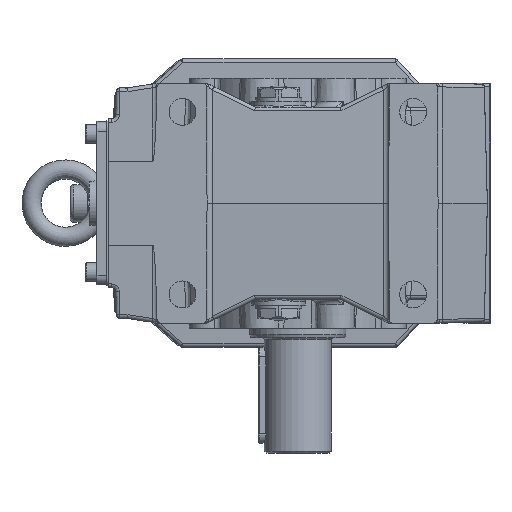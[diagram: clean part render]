
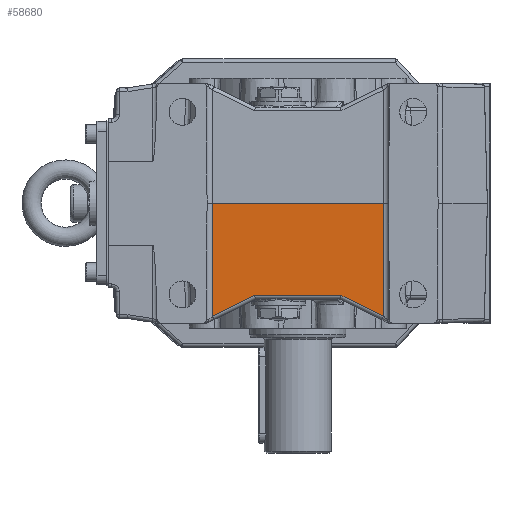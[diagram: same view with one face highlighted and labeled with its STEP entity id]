
A CAD part, left-side view. The second image highlights one B-rep face of the part: STEP entity #58680.
In plain terms, the highlighted planar face has unit normal (-1, 0, -0.026).
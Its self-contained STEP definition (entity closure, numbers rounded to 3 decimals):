
#15491=CARTESIAN_POINT('',(-88.309,-44.5,0.));
#15492=VERTEX_POINT('',#15491);
#15500=CARTESIAN_POINT('',(-86.768,-44.5,-58.854));
#15501=VERTEX_POINT('',#15500);
#15502=CARTESIAN_POINT('',(-88.309,-44.5,0.));
#15503=DIRECTION('',(0.026,0.,-1.));
#15504=VECTOR('',#15503,58.875);
#15505=LINE('',#15502,#15504);
#15506=EDGE_CURVE('',#15492,#15501,#15505,.T.);
#15996=CARTESIAN_POINT('',(-88.309,44.5,0.));
#15997=VERTEX_POINT('',#15996);
#16062=CARTESIAN_POINT('',(-86.768,44.5,-58.854));
#16063=VERTEX_POINT('',#16062);
#16071=CARTESIAN_POINT('',(-86.768,44.5,-58.854));
#16072=DIRECTION('',(-0.026,0.0,1.));
#16073=VECTOR('',#16072,58.875);
#16074=LINE('',#16071,#16073);
#16075=EDGE_CURVE('',#16063,#15997,#16074,.T.);
#58248=CARTESIAN_POINT('',(-88.309,-44.5,0.));
#58249=DIRECTION('',(0.0,1.0,0.0));
#58250=VECTOR('',#58249,89.);
#58251=LINE('',#58248,#58250);
#58252=EDGE_CURVE('',#15997,#15492,#58251,.F.);
#58505=CARTESIAN_POINT('',(-87.051,-22.464,-48.052));
#58506=VERTEX_POINT('',#58505);
#58507=CARTESIAN_POINT('',(-86.768,-44.5,-58.854));
#58508=DIRECTION('',(-0.012,0.898,0.44));
#58509=VECTOR('',#58508,24.543);
#58510=LINE('',#58507,#58509);
#58511=EDGE_CURVE('',#15501,#58506,#58510,.T.);
#58535=CARTESIAN_POINT('',(-87.051,22.464,-48.052));
#58536=VERTEX_POINT('',#58535);
#58537=CARTESIAN_POINT('',(-87.051,-22.464,-48.052));
#58538=DIRECTION('',(0.0,1.0,0.0));
#58539=VECTOR('',#58538,44.928);
#58540=LINE('',#58537,#58539);
#58541=EDGE_CURVE('',#58506,#58536,#58540,.T.);
#58568=CARTESIAN_POINT('',(-87.051,22.464,-48.052));
#58569=DIRECTION('',(0.012,0.898,-0.44));
#58570=VECTOR('',#58569,24.543);
#58571=LINE('',#58568,#58570);
#58572=EDGE_CURVE('',#58536,#16063,#58571,.T.);
#58667=CARTESIAN_POINT('',(-88.309,-97.,-0.017));
#58668=DIRECTION('',(1.,0.,0.026));
#58669=DIRECTION('',(0.026,0.,-1.));
#58670=AXIS2_PLACEMENT_3D('',#58667,#58668,#58669);
#58671=PLANE('',#58670);
#58672=ORIENTED_EDGE('',*,*,#58511,.F.);
#58673=ORIENTED_EDGE('',*,*,#15506,.F.);
#58674=ORIENTED_EDGE('',*,*,#58252,.F.);
#58675=ORIENTED_EDGE('',*,*,#16075,.F.);
#58676=ORIENTED_EDGE('',*,*,#58572,.F.);
#58677=ORIENTED_EDGE('',*,*,#58541,.F.);
#58678=EDGE_LOOP('',(#58672,#58673,#58674,#58675,#58676,#58677));
#58679=FACE_OUTER_BOUND('',#58678,.T.);
#58680=ADVANCED_FACE('',(#58679),#58671,.F.);
